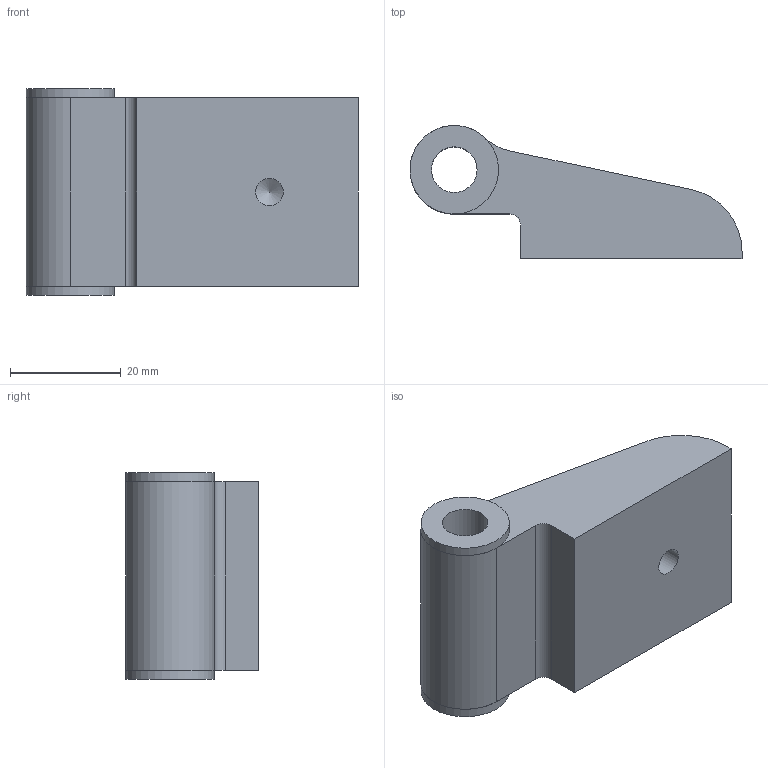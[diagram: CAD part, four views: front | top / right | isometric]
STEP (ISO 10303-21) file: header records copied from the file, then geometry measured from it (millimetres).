
FILE_DESCRIPTION (( 'STEP AP214' ), '1' );
FILE_NAME ('N50116.step', '2024-12-03T16:27:27', ( '' ), ( '' ), 'SwSTEP 2.0', 'SolidWorks 2023', '' );
FILE_SCHEMA (( 'AUTOMOTIVE_DESIGN' ));
Length unit declared in the file: millimetre
Products named in the file (1): N50116
Bounding box: 60 x 24 x 37.3 mm (x, y, z)
Volume: 26826.3 mm3; surface area: 10425.8 mm2
Topology: 3 solids, 3 shells, 26 faces, 53 edges, 35 vertices
Faces by surface type: plane 13, cylinder 12, cone 1
Full cylindrical faces by diameter (mm): 5 x1, 8.25 x2, 10.25 x3, 16 x2
Entity records: 692 total; most frequent: DIRECTION 121, CARTESIAN_POINT 104, ORIENTED_EDGE 86, AXIS2_PLACEMENT_3D 51, EDGE_CURVE 43, EDGE_LOOP 43, FACE_OUTER_BOUND 34, VERTEX_POINT 34
